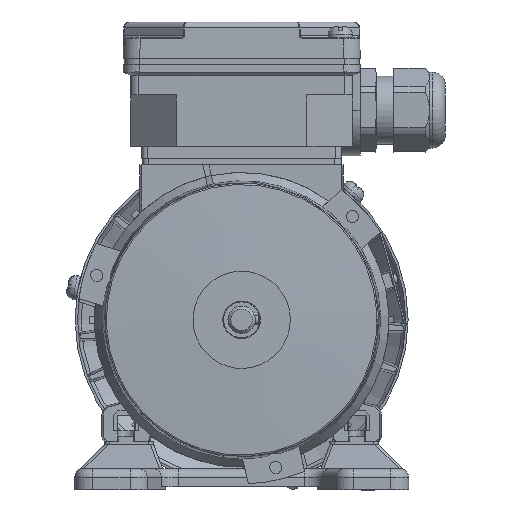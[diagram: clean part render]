
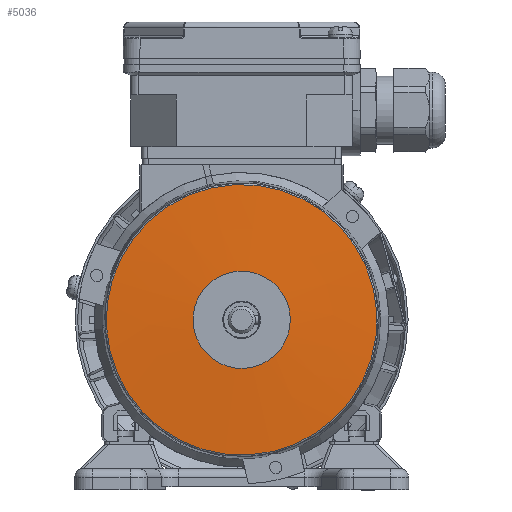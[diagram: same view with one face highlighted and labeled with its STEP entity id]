
A CAD part, left-side view. The second image highlights one B-rep face of the part: STEP entity #5036.
In plain terms, the highlighted conical face has half-angle 87.039 degrees and reference radius 16 mm.
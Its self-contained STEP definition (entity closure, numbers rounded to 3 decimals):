
#5036 = ADVANCED_FACE( '', ( #10292, #10293 ), #10294, .T. );
#10292 = FACE_OUTER_BOUND( '', #19928, .T. );
#10293 = FACE_BOUND( '', #19929, .T. );
#10294 = CONICAL_SURFACE( '', #19930, 16., 1.519 );
#19928 = EDGE_LOOP( '', ( #33955 ) );
#19929 = EDGE_LOOP( '', ( #33956 ) );
#19930 = AXIS2_PLACEMENT_3D( '', #33957, #33958, #33959 );
#33955 = ORIENTED_EDGE( '', *, *, #41376, .T. );
#33956 = ORIENTED_EDGE( '', *, *, #42803, .F. );
#33957 = CARTESIAN_POINT( '', ( 0., 1., 0. ) );
#33958 = DIRECTION( '', ( 0., 1., 0. ) );
#33959 = DIRECTION( '', ( 0., 0., 1. ) );
#41376 = EDGE_CURVE( '', #50125, #50125, #50126, .T. );
#42803 = EDGE_CURVE( '', #51840, #51840, #51841, .T. );
#50125 = VERTEX_POINT( '', #65686 );
#50126 = CIRCLE( '', #65687, 44.539 );
#51840 = VERTEX_POINT( '', #69534 );
#51841 = CIRCLE( '', #69535, 16. );
#65686 = CARTESIAN_POINT( '', ( 0., 2.476, -44.539 ) );
#65687 = AXIS2_PLACEMENT_3D( '', #75908, #75909, #75910 );
#69534 = CARTESIAN_POINT( '', ( 0., 1., -16. ) );
#69535 = AXIS2_PLACEMENT_3D( '', #77112, #77113, #77114 );
#75908 = CARTESIAN_POINT( '', ( 0., 2.476, 0. ) );
#75909 = DIRECTION( '', ( 0., -1., 0. ) );
#75910 = DIRECTION( '', ( 0., 0., -1. ) );
#77112 = CARTESIAN_POINT( '', ( 0., 1., 0. ) );
#77113 = DIRECTION( '', ( 0., -1., 0. ) );
#77114 = DIRECTION( '', ( 0., 0., -1. ) );
